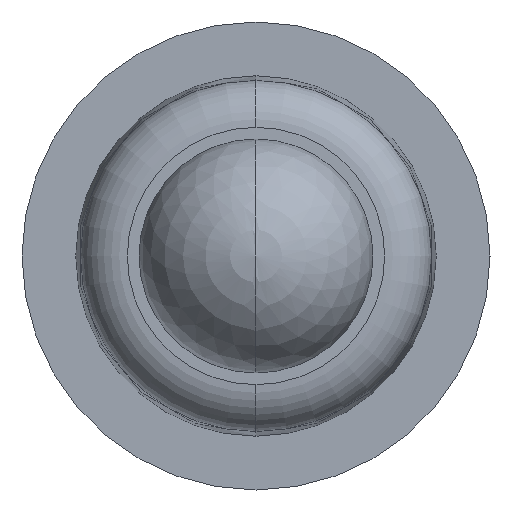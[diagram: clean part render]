
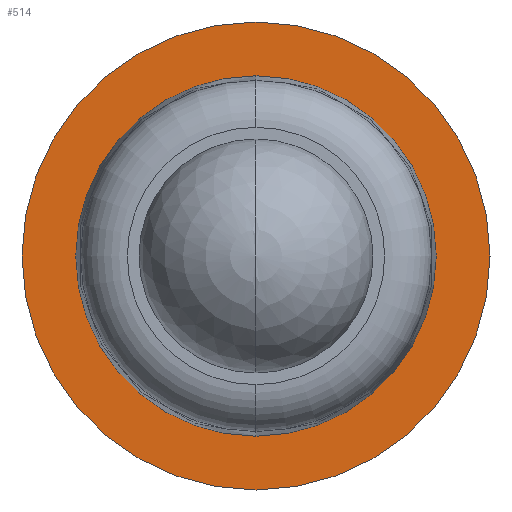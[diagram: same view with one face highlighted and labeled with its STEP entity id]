
A CAD part, left-side view. The second image highlights one B-rep face of the part: STEP entity #514.
In plain terms, the highlighted planar face has unit normal (-1, 0, 0).
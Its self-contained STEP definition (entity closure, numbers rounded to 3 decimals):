
#141=CARTESIAN_POINT('',(-1.196,0.,0.));
#142=DIRECTION('',(-1.,0.,0.));
#143=DIRECTION('',(0.,0.,-1.));
#144=AXIS2_PLACEMENT_3D('',#141,#142,#143);
#146=CARTESIAN_POINT('',(-1.196,0.,0.));
#147=DIRECTION('',(1.,0.,0.));
#148=DIRECTION('',(0.,0.,-1.));
#149=AXIS2_PLACEMENT_3D('',#146,#147,#148);
#151=CARTESIAN_POINT('',(-1.196,0.,0.));
#152=DIRECTION('',(1.,0.,0.));
#153=DIRECTION('',(0.,0.,-1.));
#154=AXIS2_PLACEMENT_3D('',#151,#152,#153);
#156=CARTESIAN_POINT('',(-1.196,0.,0.));
#157=DIRECTION('',(-1.,0.,0.));
#158=DIRECTION('',(0.,0.,-1.));
#159=AXIS2_PLACEMENT_3D('',#156,#157,#158);
#240=CARTESIAN_POINT('',(-1.196,0.,-1.));
#242=VERTEX_POINT('',#240);
#243=CARTESIAN_POINT('',(-1.196,0.,-0.75));
#245=VERTEX_POINT('',#243);
#266=CARTESIAN_POINT('',(-1.196,0.,1.));
#268=VERTEX_POINT('',#266);
#269=CARTESIAN_POINT('',(-1.196,0.,0.75));
#271=VERTEX_POINT('',#269);
#499=CARTESIAN_POINT('',(-1.196,0.,0.));
#500=DIRECTION('',(1.,0.,0.));
#501=DIRECTION('',(0.,0.,1.));
#502=AXIS2_PLACEMENT_3D('',#499,#500,#501);
#503=PLANE('',#502);
#505=ORIENTED_EDGE('',*,*,#504,.T.);
#507=ORIENTED_EDGE('',*,*,#506,.F.);
#508=EDGE_LOOP('',(#505,#507));
#509=FACE_OUTER_BOUND('',#508,.F.);
#510=ORIENTED_EDGE('',*,*,#481,.T.);
#511=ORIENTED_EDGE('',*,*,#492,.F.);
#512=EDGE_LOOP('',(#510,#511));
#513=FACE_BOUND('',#512,.F.);
#514=ADVANCED_FACE('',(#509,#513),#503,.F.);
#145=CIRCLE('',#144,0.75);
#150=CIRCLE('',#149,0.75);
#155=CIRCLE('',#154,1.);
#160=CIRCLE('',#159,1.);
#481=EDGE_CURVE('',#245,#271,#145,.T.);
#492=EDGE_CURVE('',#245,#271,#150,.T.);
#504=EDGE_CURVE('',#242,#268,#155,.T.);
#506=EDGE_CURVE('',#242,#268,#160,.T.);
